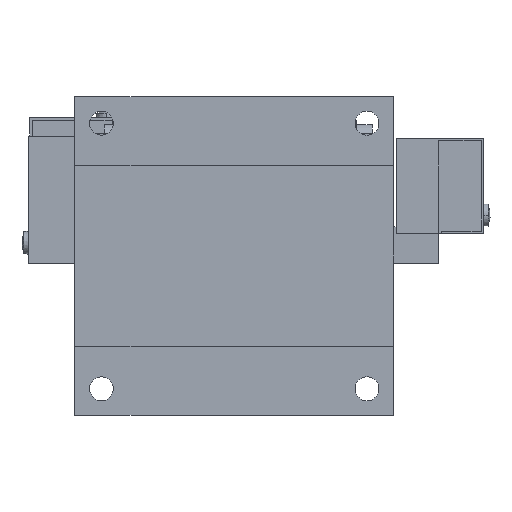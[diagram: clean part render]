
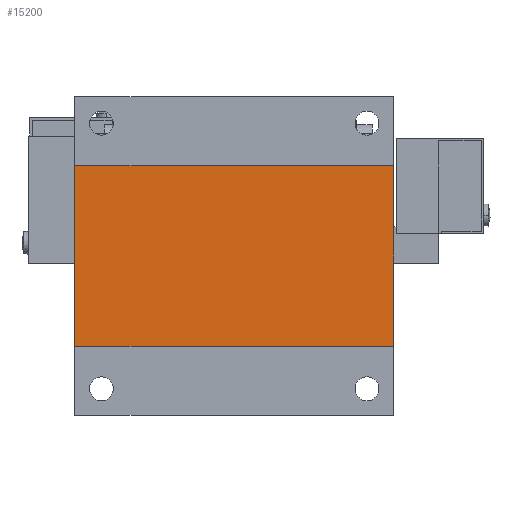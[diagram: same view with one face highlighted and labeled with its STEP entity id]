
A CAD part, front view. The second image highlights one B-rep face of the part: STEP entity #15200.
In plain terms, the highlighted planar face has unit normal (0, -1, 0) as drawn and (0, 0, -1) by its records, which use the part's own axes.
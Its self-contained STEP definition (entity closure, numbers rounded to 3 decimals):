
#37 = CARTESIAN_POINT ( 'NONE',  ( 30., -17., 0.5 ) ) ;
#144 = EDGE_CURVE ( 'NONE', #13400, #11142, #6849, .T. ) ;
#787 = CARTESIAN_POINT ( 'NONE',  ( 30., 17., 0.5 ) ) ;
#801 = ORIENTED_EDGE ( 'NONE', *, *, #144, .F. ) ;
#1532 = EDGE_LOOP ( 'NONE', ( #5474, #801, #9823, #8572 ) ) ;
#2189 = DIRECTION ( 'NONE',  ( 0., 1., 0. ) ) ;
#2985 = FACE_OUTER_BOUND ( 'NONE', #1532, .T. ) ;
#3358 = VECTOR ( 'NONE', #9271, 1000. ) ;
#3660 = VECTOR ( 'NONE', #13433, 1000. ) ;
#3716 = VECTOR ( 'NONE', #14930, 1000. ) ;
#3789 = EDGE_CURVE ( 'NONE', #14559, #14398, #4092, .T. ) ;
#4092 = LINE ( 'NONE', #10466, #3358 ) ;
#5474 = ORIENTED_EDGE ( 'NONE', *, *, #7407, .T. ) ;
#6849 = LINE ( 'NONE', #787, #3716 ) ;
#6959 = LINE ( 'NONE', #9231, #12849 ) ;
#7407 = EDGE_CURVE ( 'NONE', #14398, #11142, #9914, .T. ) ;
#8207 = EDGE_CURVE ( 'NONE', #14559, #13400, #6959, .T. ) ;
#8572 = ORIENTED_EDGE ( 'NONE', *, *, #3789, .T. ) ;
#9231 = CARTESIAN_POINT ( 'NONE',  ( 30., 17., 0.5 ) ) ;
#9271 = DIRECTION ( 'NONE',  ( -1., 0., 0. ) ) ;
#9668 = CARTESIAN_POINT ( 'NONE',  ( 30., 17., 0.5 ) ) ;
#9823 = ORIENTED_EDGE ( 'NONE', *, *, #8207, .F. ) ;
#9914 = LINE ( 'NONE', #13482, #3660 ) ;
#10070 = CARTESIAN_POINT ( 'NONE',  ( -30., 17., 0.5 ) ) ;
#10432 = DIRECTION ( 'NONE',  ( 0., 0., 1. ) ) ;
#10466 = CARTESIAN_POINT ( 'NONE',  ( 30., -17., 0.5 ) ) ;
#10883 = AXIS2_PLACEMENT_3D ( 'NONE', #14004, #10432, #15188 ) ;
#11142 = VERTEX_POINT ( 'NONE', #10070 ) ;
#12802 = PLANE ( 'NONE',  #10883 ) ;
#12849 = VECTOR ( 'NONE', #2189, 1000. ) ;
#13400 = VERTEX_POINT ( 'NONE', #9668 ) ;
#13433 = DIRECTION ( 'NONE',  ( 0., 1., 0. ) ) ;
#13482 = CARTESIAN_POINT ( 'NONE',  ( -30., 17., 0.5 ) ) ;
#14004 = CARTESIAN_POINT ( 'NONE',  ( 30., 17., 0.5 ) ) ;
#14398 = VERTEX_POINT ( 'NONE', #15194 ) ;
#14559 = VERTEX_POINT ( 'NONE', #37 ) ;
#14930 = DIRECTION ( 'NONE',  ( -1., 0., 0. ) ) ;
#15188 = DIRECTION ( 'NONE',  ( 0., -1., 0. ) ) ;
#15194 = CARTESIAN_POINT ( 'NONE',  ( -30., -17., 0.5 ) ) ;
#15200 = ADVANCED_FACE ( 'NONE', ( #2985 ), #12802, .F. ) ;
